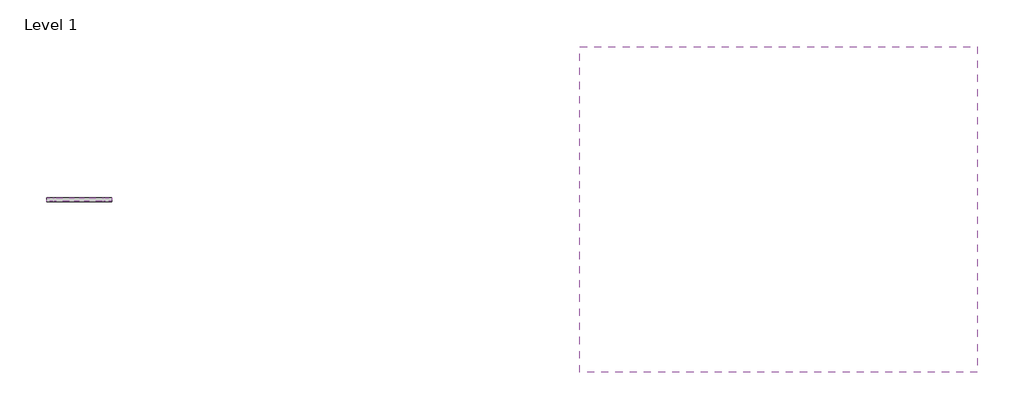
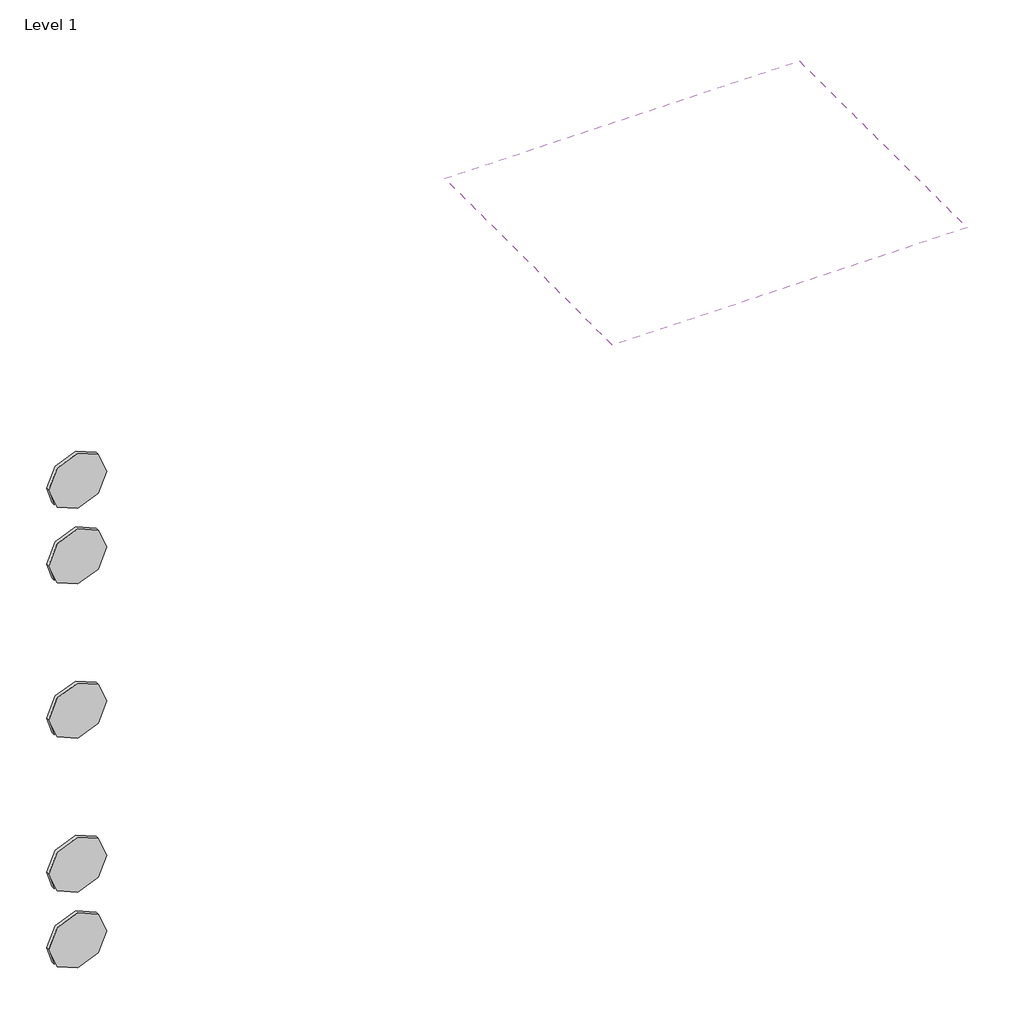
# One storey, incomplete: 5 proxies, 1 covering.
"""IFC4 building model written with IfcOpenShell, lengths in millimetres."""

from ifc_helpers import new_model, si_unit, frame, origin, place, context, project, spatial, polyline, outline, extrude, transform, mapped, element, save
from components import materialmodel_materialmodel_41144b76

model = new_model("IFC4")

# Units and contexts
model_context = context("Model", 3, world=origin())
ifc_project = project(units=[si_unit("LENGTHUNIT", "METRE", prefix="MILLI")], contexts=[model_context])

# Site, building, storey
site = spatial("IfcSite", under=ifc_project)
building = spatial("IfcBuilding", under=site)
storey = spatial("IfcBuildingStorey", under=building, Name="Level 1", Elevation=0.0)

# Proxies
placement = place(None, origin())
materialmodel_materialmodel_shape = materialmodel_materialmodel_41144b76(model_context)
element("IfcBuildingElementProxy", 1, Name="MaterialModel : MaterialModel", ObjectType="MaterialModel : MaterialModel", at=placement, inside=storey, context=model_context, shape_type="MappedRepresentation", body=[
    mapped(materialmodel_materialmodel_shape, transform((-16017.8072231, 6097.5863071, 816.7046249), x_axis=(1.0, 0.0, 0.0), y_axis=(0.0, 1.0, 0.0), z_axis=(0.0, 0.0, 1.0))),
])
element("IfcBuildingElementProxy", 2, Name="MaterialModel : MaterialModel", ObjectType="MaterialModel : MaterialModel", at=placement, inside=storey, context=model_context, shape_type="MappedRepresentation", body=[
    mapped(materialmodel_materialmodel_shape, transform((-16017.8072231, 6097.5863071, 1652.218674), x_axis=(1.0, 0.0, 0.0), y_axis=(0.0, 1.0, 0.0), z_axis=(0.0, 0.0, 1.0))),
])
element("IfcBuildingElementProxy", 3, Name="MaterialModel : MaterialModel", ObjectType="MaterialModel : MaterialModel", at=placement, inside=storey, context=model_context, shape_type="MappedRepresentation", body=[
    mapped(materialmodel_materialmodel_shape, transform((-16017.8072231, 6097.5863071, 1377.218674), x_axis=(1.0, 0.0, 0.0), y_axis=(0.0, 1.0, 0.0), z_axis=(0.0, 0.0, 1.0))),
])
element("IfcBuildingElementProxy", 4, Name="MaterialModel : MaterialModel", ObjectType="MaterialModel : MaterialModel", at=placement, inside=storey, context=model_context, shape_type="MappedRepresentation", body=[
    mapped(materialmodel_materialmodel_shape, transform((-16017.8072231, 6097.5863071, 256.7046249), x_axis=(1.0, 0.0, 0.0), y_axis=(0.0, 1.0, 0.0), z_axis=(0.0, 0.0, 1.0))),
])
element("IfcBuildingElementProxy", 5, Name="MaterialModel : MaterialModel", ObjectType="MaterialModel : MaterialModel", at=placement, inside=storey, context=model_context, shape_type="MappedRepresentation", body=[
    mapped(materialmodel_materialmodel_shape, transform((-16017.8072231, 6097.5863071, -18.2953751), x_axis=(1.0, 0.0, 0.0), y_axis=(0.0, 1.0, 0.0), z_axis=(0.0, 0.0, 1.0))),
])

# Covering
element("IfcCovering", 6, ObjectType="600 x 1200mm Grid", at=placement, inside=storey, context=model_context, shape_type="SweptSolid", body=[
    extrude(outline(polyline([(-13260.883584, 6561.1087432), (-13260.883584, 5561.1087432), (-14480.883584, 5561.1087432), (-14480.883584, 6561.1087432), (-13260.883584, 6561.1087432)])), frame((0.0, 0.0, 2000.0), z_axis=(0.0, 0.0, 1.0), x_axis=(1.0, 0.0, 0.0)), (0.0, 0.0, 1.0), 52.0),
])

save(model, "model.ifc")
